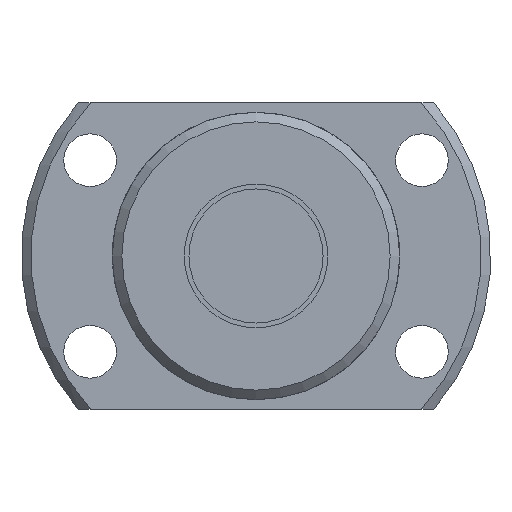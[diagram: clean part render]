
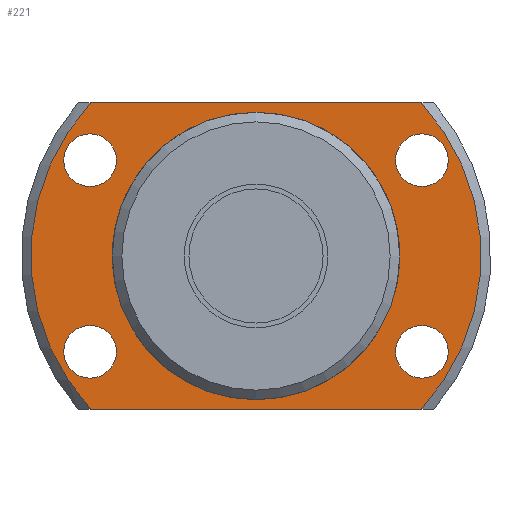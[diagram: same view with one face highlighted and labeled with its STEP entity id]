
A CAD part, left-side view. The second image highlights one B-rep face of the part: STEP entity #221.
In plain terms, the highlighted planar face has unit normal (-1, 0, 0).
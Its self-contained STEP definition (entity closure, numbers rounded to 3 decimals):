
#221 = ADVANCED_FACE( '', ( #354, #355, #356, #357, #358, #359 ), #360, .F. );
#354 = FACE_OUTER_BOUND( '', #501, .T. );
#355 = FACE_BOUND( '', #502, .T. );
#356 = FACE_BOUND( '', #503, .T. );
#357 = FACE_BOUND( '', #504, .T. );
#358 = FACE_BOUND( '', #505, .T. );
#359 = FACE_BOUND( '', #506, .T. );
#360 = PLANE( '', #507 );
#501 = EDGE_LOOP( '', ( #903, #904, #905, #906 ) );
#502 = EDGE_LOOP( '', ( #907 ) );
#503 = EDGE_LOOP( '', ( #908 ) );
#504 = EDGE_LOOP( '', ( #909 ) );
#505 = EDGE_LOOP( '', ( #910 ) );
#506 = EDGE_LOOP( '', ( #911 ) );
#507 = AXIS2_PLACEMENT_3D( '', #912, #913, #914 );
#903 = ORIENTED_EDGE( '', *, *, #984, .F. );
#904 = ORIENTED_EDGE( '', *, *, #1068, .T. );
#905 = ORIENTED_EDGE( '', *, *, #1062, .F. );
#906 = ORIENTED_EDGE( '', *, *, #978, .T. );
#907 = ORIENTED_EDGE( '', *, *, #1028, .T. );
#908 = ORIENTED_EDGE( '', *, *, #1026, .T. );
#909 = ORIENTED_EDGE( '', *, *, #1024, .T. );
#910 = ORIENTED_EDGE( '', *, *, #1022, .T. );
#911 = ORIENTED_EDGE( '', *, *, #1064, .T. );
#912 = CARTESIAN_POINT( '', ( 27., 14.75, 0. ) );
#913 = DIRECTION( '', ( 1., 0., 0. ) );
#914 = DIRECTION( '', ( 0., 0., -1. ) );
#978 = EDGE_CURVE( '', #1129, #1127, #1130, .T. );
#984 = EDGE_CURVE( '', #1140, #1127, #1141, .T. );
#1022 = EDGE_CURVE( '', #1208, #1208, #1209, .T. );
#1024 = EDGE_CURVE( '', #1212, #1212, #1213, .T. );
#1026 = EDGE_CURVE( '', #1216, #1216, #1217, .T. );
#1028 = EDGE_CURVE( '', #1220, #1220, #1221, .T. );
#1062 = EDGE_CURVE( '', #1129, #1273, #1274, .T. );
#1064 = EDGE_CURVE( '', #1276, #1276, #1277, .T. );
#1068 = EDGE_CURVE( '', #1140, #1273, #1282, .T. );
#1127 = VERTEX_POINT( '', #1404 );
#1129 = VERTEX_POINT( '', #1409 );
#1130 = LINE( '', #1410, #1411 );
#1140 = VERTEX_POINT( '', #1432 );
#1141 = CIRCLE( '', #1433, 23.5 );
#1208 = VERTEX_POINT( '', #1539 );
#1209 = CIRCLE( '', #1540, 2.75 );
#1212 = VERTEX_POINT( '', #1543 );
#1213 = CIRCLE( '', #1544, 2.75 );
#1216 = VERTEX_POINT( '', #1547 );
#1217 = CIRCLE( '', #1548, 2.75 );
#1220 = VERTEX_POINT( '', #1551 );
#1221 = CIRCLE( '', #1552, 2.75 );
#1273 = VERTEX_POINT( '', #1625 );
#1274 = CIRCLE( '', #1626, 23.5 );
#1276 = VERTEX_POINT( '', #1631 );
#1277 = CIRCLE( '', #1632, 14.75 );
#1282 = LINE( '', #1637, #1638 );
#1404 = CARTESIAN_POINT( '', ( 27., 17.212, 16. ) );
#1409 = CARTESIAN_POINT( '', ( 27., -17.212, 16. ) );
#1410 = CARTESIAN_POINT( '', ( 27., 14.75, 16. ) );
#1411 = VECTOR( '', #1692, 1000. );
#1432 = CARTESIAN_POINT( '', ( 27., 17.212, -16. ) );
#1433 = AXIS2_PLACEMENT_3D( '', #1695, #1696, #1697 );
#1539 = CARTESIAN_POINT( '', ( 27., 17.321, 7.25 ) );
#1540 = AXIS2_PLACEMENT_3D( '', #1758, #1759, #1760 );
#1543 = CARTESIAN_POINT( '', ( 27., 17.321, -12.75 ) );
#1544 = AXIS2_PLACEMENT_3D( '', #1764, #1765, #1766 );
#1547 = CARTESIAN_POINT( '', ( 27., -17.321, -12.75 ) );
#1548 = AXIS2_PLACEMENT_3D( '', #1770, #1771, #1772 );
#1551 = CARTESIAN_POINT( '', ( 27., -17.321, 7.25 ) );
#1552 = AXIS2_PLACEMENT_3D( '', #1776, #1777, #1778 );
#1625 = CARTESIAN_POINT( '', ( 27., -17.212, -16. ) );
#1626 = AXIS2_PLACEMENT_3D( '', #1842, #1843, #1844 );
#1631 = CARTESIAN_POINT( '', ( 27., 0., -14.75 ) );
#1632 = AXIS2_PLACEMENT_3D( '', #1845, #1846, #1847 );
#1637 = CARTESIAN_POINT( '', ( 27., 14.75, -16. ) );
#1638 = VECTOR( '', #1857, 1000. );
#1692 = DIRECTION( '', ( 0., 1., 0. ) );
#1695 = CARTESIAN_POINT( '', ( 27., 0., 0. ) );
#1696 = DIRECTION( '', ( 1., 0., 0. ) );
#1697 = DIRECTION( '', ( 0., 0., -1. ) );
#1758 = CARTESIAN_POINT( '', ( 27., 17.321, 10. ) );
#1759 = DIRECTION( '', ( 1., 0., 0. ) );
#1760 = DIRECTION( '', ( 0., 0., -1. ) );
#1764 = CARTESIAN_POINT( '', ( 27., 17.321, -10. ) );
#1765 = DIRECTION( '', ( 1., 0., 0. ) );
#1766 = DIRECTION( '', ( 0., 0., -1. ) );
#1770 = CARTESIAN_POINT( '', ( 27., -17.321, -10. ) );
#1771 = DIRECTION( '', ( 1., 0., 0. ) );
#1772 = DIRECTION( '', ( 0., 0., -1. ) );
#1776 = CARTESIAN_POINT( '', ( 27., -17.321, 10. ) );
#1777 = DIRECTION( '', ( 1., 0., 0. ) );
#1778 = DIRECTION( '', ( 0., 0., -1. ) );
#1842 = CARTESIAN_POINT( '', ( 27., 0., 0. ) );
#1843 = DIRECTION( '', ( 1., 0., 0. ) );
#1844 = DIRECTION( '', ( 0., 0., -1. ) );
#1845 = CARTESIAN_POINT( '', ( 27., 0., 0. ) );
#1846 = DIRECTION( '', ( 1., 0., 0. ) );
#1847 = DIRECTION( '', ( 0., 0., -1. ) );
#1857 = DIRECTION( '', ( 0., -1., 0. ) );
